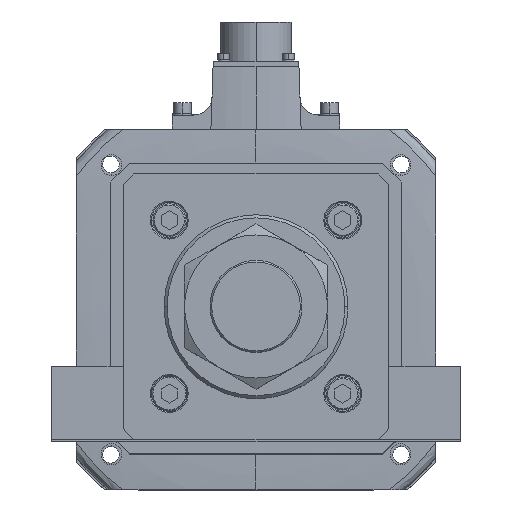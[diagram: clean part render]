
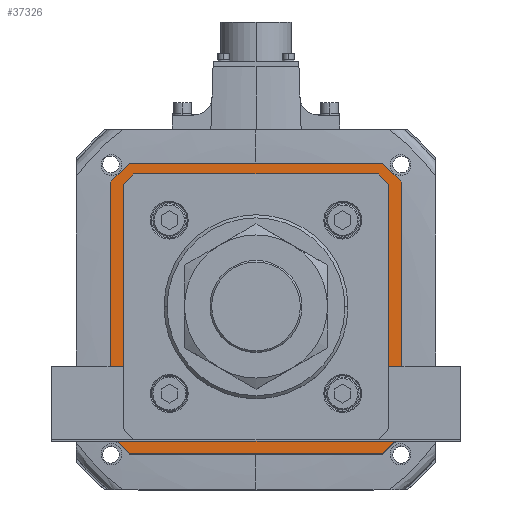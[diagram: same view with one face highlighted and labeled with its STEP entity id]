
A CAD part, top view. The second image highlights one B-rep face of the part: STEP entity #37326.
In plain terms, the highlighted planar face has unit normal (0, 0, 1).
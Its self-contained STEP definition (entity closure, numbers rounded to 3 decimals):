
#757 = LINE ( 'NONE', #47700, #6140 ) ;
#812 = AXIS2_PLACEMENT_3D ( 'NONE', #26731, #5829, #40202 ) ;
#1427 = ORIENTED_EDGE ( 'NONE', *, *, #33778, .T. ) ;
#2224 = EDGE_CURVE ( 'NONE', #46264, #18160, #44719, .T. ) ;
#2514 = CARTESIAN_POINT ( 'NONE',  ( 60.896, -60.896, -142. ) ) ;
#4312 = CARTESIAN_POINT ( 'NONE',  ( -63., 58.793, -142. ) ) ;
#5167 = VECTOR ( 'NONE', #33117, 1000. ) ;
#5336 = DIRECTION ( 'NONE',  ( -0.707, -0.707, 0. ) ) ;
#5791 = DIRECTION ( 'NONE',  ( -1., 0., 0. ) ) ;
#5829 = DIRECTION ( 'NONE',  ( 0., 0., 1. ) ) ;
#6121 = CARTESIAN_POINT ( 'NONE',  ( 58.793, -63., -142. ) ) ;
#6140 = VECTOR ( 'NONE', #5336, 1000. ) ;
#6554 = VERTEX_POINT ( 'NONE', #48773 ) ;
#6922 = VERTEX_POINT ( 'NONE', #19195 ) ;
#7190 = ORIENTED_EDGE ( 'NONE', *, *, #9731, .T. ) ;
#7363 = DIRECTION ( 'NONE',  ( -0.707, -0.707, 0. ) ) ;
#8649 = VECTOR ( 'NONE', #5791, 1000. ) ;
#9251 = LINE ( 'NONE', #19605, #44051 ) ;
#9308 = VECTOR ( 'NONE', #51099, 1000. ) ;
#9474 = CARTESIAN_POINT ( 'NONE',  ( 62., 71., -142. ) ) ;
#9675 = CARTESIAN_POINT ( 'NONE',  ( 71., -62., -142. ) ) ;
#9731 = EDGE_CURVE ( 'NONE', #39989, #11541, #12807, .T. ) ;
#9841 = VECTOR ( 'NONE', #32434, 1000. ) ;
#10361 = EDGE_CURVE ( 'NONE', #6922, #32960, #21338, .T. ) ;
#10511 = LINE ( 'NONE', #15068, #5167 ) ;
#11316 = CARTESIAN_POINT ( 'NONE',  ( 58.793, 63., -142. ) ) ;
#11534 = EDGE_CURVE ( 'NONE', #54381, #26618, #44005, .T. ) ;
#11541 = VERTEX_POINT ( 'NONE', #46006 ) ;
#11640 = CARTESIAN_POINT ( 'NONE',  ( 63., 0., -142. ) ) ;
#11819 = DIRECTION ( 'NONE',  ( 0., -1., 0. ) ) ;
#11822 = DIRECTION ( 'NONE',  ( -0.707, 0.707, 0. ) ) ;
#12064 = VECTOR ( 'NONE', #43566, 1000. ) ;
#12807 = LINE ( 'NONE', #37468, #34124 ) ;
#13122 = ORIENTED_EDGE ( 'NONE', *, *, #48866, .T. ) ;
#13430 = VECTOR ( 'NONE', #11819, 1000. ) ;
#13870 = ORIENTED_EDGE ( 'NONE', *, *, #34501, .F. ) ;
#14778 = ORIENTED_EDGE ( 'NONE', *, *, #10361, .F. ) ;
#15068 = CARTESIAN_POINT ( 'NONE',  ( -60.896, -60.896, -142. ) ) ;
#15125 = CARTESIAN_POINT ( 'NONE',  ( -58.793, -63., -142. ) ) ;
#15355 = CARTESIAN_POINT ( 'NONE',  ( -62., -71., -142. ) ) ;
#15495 = DIRECTION ( 'NONE',  ( 0.707, -0.707, 0. ) ) ;
#16166 = VERTEX_POINT ( 'NONE', #21718 ) ;
#16419 = EDGE_CURVE ( 'NONE', #11541, #6554, #19489, .T. ) ;
#16489 = CARTESIAN_POINT ( 'NONE',  ( -63., 0., -142. ) ) ;
#16577 = ORIENTED_EDGE ( 'NONE', *, *, #37079, .T. ) ;
#17232 = VECTOR ( 'NONE', #54189, 1000. ) ;
#17282 = CARTESIAN_POINT ( 'NONE',  ( 0., 63., -142. ) ) ;
#17572 = VERTEX_POINT ( 'NONE', #27907 ) ;
#18160 = VERTEX_POINT ( 'NONE', #15125 ) ;
#18279 = EDGE_CURVE ( 'NONE', #31139, #6922, #9251, .T. ) ;
#18579 = ORIENTED_EDGE ( 'NONE', *, *, #16419, .T. ) ;
#19195 = CARTESIAN_POINT ( 'NONE',  ( 71., 62., -142. ) ) ;
#19489 = LINE ( 'NONE', #11640, #13430 ) ;
#19605 = CARTESIAN_POINT ( 'NONE',  ( 71., 62., -142. ) ) ;
#19685 = EDGE_CURVE ( 'NONE', #18160, #41585, #10511, .T. ) ;
#19730 = CARTESIAN_POINT ( 'NONE',  ( -62., 71., -142. ) ) ;
#20802 = EDGE_CURVE ( 'NONE', #17572, #29307, #46454, .T. ) ;
#21040 = VERTEX_POINT ( 'NONE', #4312 ) ;
#21338 = LINE ( 'NONE', #34901, #12064 ) ;
#21718 = CARTESIAN_POINT ( 'NONE',  ( -58.793, 63., -142. ) ) ;
#22073 = ORIENTED_EDGE ( 'NONE', *, *, #2224, .T. ) ;
#22189 = CARTESIAN_POINT ( 'NONE',  ( 0., -63., -142. ) ) ;
#22990 = CARTESIAN_POINT ( 'NONE',  ( -71., 62., -142. ) ) ;
#24254 = CARTESIAN_POINT ( 'NONE',  ( -60.896, 60.896, -142. ) ) ;
#26249 = DIRECTION ( 'NONE',  ( 1., 0., 0. ) ) ;
#26618 = VERTEX_POINT ( 'NONE', #15355 ) ;
#26628 = LINE ( 'NONE', #41179, #40711 ) ;
#26731 = CARTESIAN_POINT ( 'NONE',  ( 0., 0., -142. ) ) ;
#27907 = CARTESIAN_POINT ( 'NONE',  ( -71., 62., -142. ) ) ;
#27953 = EDGE_CURVE ( 'NONE', #32960, #54381, #757, .T. ) ;
#29071 = DIRECTION ( 'NONE',  ( 0.707, -0.707, 0. ) ) ;
#29307 = VERTEX_POINT ( 'NONE', #19730 ) ;
#29516 = VECTOR ( 'NONE', #50651, 1000. ) ;
#30761 = CARTESIAN_POINT ( 'NONE',  ( 62., -71., -142. ) ) ;
#31139 = VERTEX_POINT ( 'NONE', #45917 ) ;
#31202 = EDGE_CURVE ( 'NONE', #16166, #39989, #32000, .T. ) ;
#31483 = FACE_OUTER_BOUND ( 'NONE', #48633, .T. ) ;
#32000 = LINE ( 'NONE', #17282, #9308 ) ;
#32373 = VECTOR ( 'NONE', #7363, 1000. ) ;
#32434 = DIRECTION ( 'NONE',  ( 0.707, 0.707, 0. ) ) ;
#32938 = CARTESIAN_POINT ( 'NONE',  ( -63., -58.793, -142. ) ) ;
#32960 = VERTEX_POINT ( 'NONE', #9675 ) ;
#33117 = DIRECTION ( 'NONE',  ( -0.707, 0.707, 0. ) ) ;
#33778 = EDGE_CURVE ( 'NONE', #6554, #46264, #50456, .T. ) ;
#34124 = VECTOR ( 'NONE', #29071, 1000. ) ;
#34146 = ORIENTED_EDGE ( 'NONE', *, *, #31202, .T. ) ;
#34501 = EDGE_CURVE ( 'NONE', #29307, #31139, #50398, .T. ) ;
#34901 = CARTESIAN_POINT ( 'NONE',  ( 71., 62., -142. ) ) ;
#35041 = VECTOR ( 'NONE', #37559, 1000. ) ;
#36569 = ORIENTED_EDGE ( 'NONE', *, *, #27953, .F. ) ;
#36818 = CARTESIAN_POINT ( 'NONE',  ( -62., 71., -142. ) ) ;
#37079 = EDGE_CURVE ( 'NONE', #41585, #21040, #46250, .T. ) ;
#37326 = ADVANCED_FACE ( 'NONE', ( #46208, #31483 ), #44472, .T. ) ;
#37400 = EDGE_CURVE ( 'NONE', #51825, #17572, #48231, .T. ) ;
#37468 = CARTESIAN_POINT ( 'NONE',  ( 60.896, 60.896, -142. ) ) ;
#37559 = DIRECTION ( 'NONE',  ( 0.707, 0.707, 0. ) ) ;
#38213 = VECTOR ( 'NONE', #41854, 1000. ) ;
#39064 = VECTOR ( 'NONE', #26249, 1000. ) ;
#39989 = VERTEX_POINT ( 'NONE', #11316 ) ;
#40202 = DIRECTION ( 'NONE',  ( 1., 0., 0. ) ) ;
#40400 = EDGE_CURVE ( 'NONE', #26618, #51825, #26628, .T. ) ;
#40711 = VECTOR ( 'NONE', #11822, 1000. ) ;
#41179 = CARTESIAN_POINT ( 'NONE',  ( -62., -71., -142. ) ) ;
#41585 = VERTEX_POINT ( 'NONE', #32938 ) ;
#41854 = DIRECTION ( 'NONE',  ( 0., 1., 0. ) ) ;
#41952 = ORIENTED_EDGE ( 'NONE', *, *, #11534, .F. ) ;
#42570 = LINE ( 'NONE', #24254, #9841 ) ;
#42988 = ORIENTED_EDGE ( 'NONE', *, *, #18279, .F. ) ;
#43281 = EDGE_LOOP ( 'NONE', ( #18579, #1427, #22073, #51961, #16577, #13122, #34146, #7190 ) ) ;
#43566 = DIRECTION ( 'NONE',  ( 0., -1., 0. ) ) ;
#44005 = LINE ( 'NONE', #50273, #17232 ) ;
#44051 = VECTOR ( 'NONE', #15495, 1000. ) ;
#44472 = PLANE ( 'NONE',  #812 ) ;
#44719 = LINE ( 'NONE', #22189, #8649 ) ;
#45028 = ORIENTED_EDGE ( 'NONE', *, *, #20802, .F. ) ;
#45917 = CARTESIAN_POINT ( 'NONE',  ( 62., 71., -142. ) ) ;
#46006 = CARTESIAN_POINT ( 'NONE',  ( 63., 58.793, -142. ) ) ;
#46208 = FACE_BOUND ( 'NONE', #43281, .T. ) ;
#46250 = LINE ( 'NONE', #16489, #29516 ) ;
#46264 = VERTEX_POINT ( 'NONE', #6121 ) ;
#46454 = LINE ( 'NONE', #36818, #35041 ) ;
#46906 = ORIENTED_EDGE ( 'NONE', *, *, #40400, .F. ) ;
#47700 = CARTESIAN_POINT ( 'NONE',  ( 71., -62., -142. ) ) ;
#48231 = LINE ( 'NONE', #22990, #38213 ) ;
#48633 = EDGE_LOOP ( 'NONE', ( #13870, #45028, #50070, #46906, #41952, #36569, #14778, #42988 ) ) ;
#48773 = CARTESIAN_POINT ( 'NONE',  ( 63., -58.793, -142. ) ) ;
#48866 = EDGE_CURVE ( 'NONE', #21040, #16166, #42570, .T. ) ;
#50070 = ORIENTED_EDGE ( 'NONE', *, *, #37400, .F. ) ;
#50273 = CARTESIAN_POINT ( 'NONE',  ( 62., -71., -142. ) ) ;
#50398 = LINE ( 'NONE', #9474, #39064 ) ;
#50456 = LINE ( 'NONE', #2514, #32373 ) ;
#50651 = DIRECTION ( 'NONE',  ( 0., 1., 0. ) ) ;
#51099 = DIRECTION ( 'NONE',  ( 1., 0., 0. ) ) ;
#51338 = CARTESIAN_POINT ( 'NONE',  ( -71., -62., -142. ) ) ;
#51825 = VERTEX_POINT ( 'NONE', #51338 ) ;
#51961 = ORIENTED_EDGE ( 'NONE', *, *, #19685, .T. ) ;
#54189 = DIRECTION ( 'NONE',  ( -1., 0., 0. ) ) ;
#54381 = VERTEX_POINT ( 'NONE', #30761 ) ;
